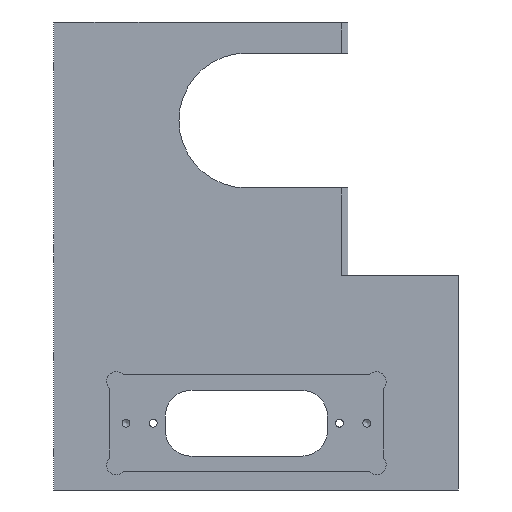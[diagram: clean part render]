
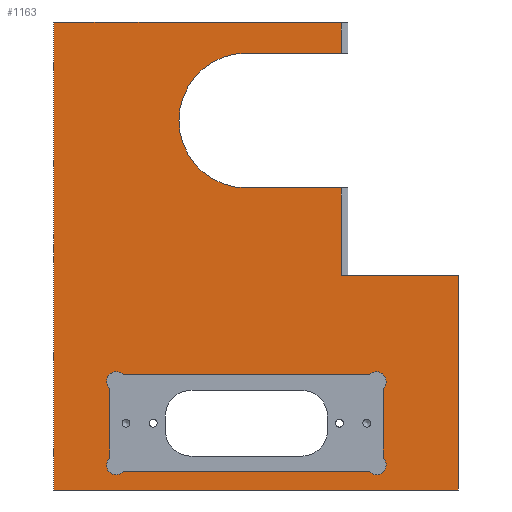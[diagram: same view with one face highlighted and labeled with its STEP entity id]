
A CAD part, front view. The second image highlights one B-rep face of the part: STEP entity #1163.
In plain terms, the highlighted planar face has unit normal (0, -1, 0).
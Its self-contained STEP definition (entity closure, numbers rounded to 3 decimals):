
#30=PLANE('',#1272);
#56=LINE('',#1754,#154);
#64=LINE('',#1776,#162);
#65=LINE('',#1778,#163);
#66=LINE('',#1780,#164);
#97=LINE('',#1873,#195);
#101=LINE('',#1883,#199);
#102=LINE('',#1885,#200);
#103=LINE('',#1887,#201);
#104=LINE('',#1889,#202);
#105=LINE('',#1891,#203);
#106=LINE('',#1893,#204);
#107=LINE('',#1895,#205);
#108=LINE('',#1899,#206);
#109=LINE('',#1900,#207);
#154=VECTOR('',#1398,21.719);
#162=VECTOR('',#1418,21.719);
#163=VECTOR('',#1421,76.719);
#164=VECTOR('',#1424,76.719);
#195=VECTOR('',#1521,61.727);
#199=VECTOR('',#1529,26.);
#200=VECTOR('',#1530,145.8);
#201=VECTOR('',#1531,126.);
#202=VECTOR('',#1532,66.8);
#203=VECTOR('',#1533,36.4);
#204=VECTOR('',#1534,27.3);
#205=VECTOR('',#1535,29.6);
#206=VECTOR('',#1538,29.6);
#207=VECTOR('',#1539,9.4);
#256=FACE_BOUND('',#424,.T.);
#338=FACE_OUTER_BOUND('',#423,.T.);
#423=EDGE_LOOP('',(#960,#961,#962,#963,#964,#965,#966,#967,#968,#969,#970,
#971));
#424=EDGE_LOOP('',(#972,#973,#974,#975,#976,#977,#978,#979));
#488=CIRCLE('',#1218,3.);
#490=CIRCLE('',#1221,3.);
#492=CIRCLE('',#1224,3.);
#495=CIRCLE('',#1228,3.);
#512=CIRCLE('',#1268,6.);
#515=CIRCLE('',#1273,21.);
#546=VERTEX_POINT('',#1717);
#548=VERTEX_POINT('',#1720);
#550=VERTEX_POINT('',#1726);
#552=VERTEX_POINT('',#1729);
#554=VERTEX_POINT('',#1735);
#556=VERTEX_POINT('',#1738);
#559=VERTEX_POINT('',#1745);
#561=VERTEX_POINT('',#1749);
#594=VERTEX_POINT('',#1863);
#595=VERTEX_POINT('',#1864);
#598=VERTEX_POINT('',#1872);
#602=VERTEX_POINT('',#1882);
#603=VERTEX_POINT('',#1884);
#604=VERTEX_POINT('',#1886);
#605=VERTEX_POINT('',#1888);
#606=VERTEX_POINT('',#1890);
#607=VERTEX_POINT('',#1892);
#608=VERTEX_POINT('',#1894);
#609=VERTEX_POINT('',#1896);
#610=VERTEX_POINT('',#1898);
#659=EDGE_CURVE('',#548,#546,#488,.T.);
#663=EDGE_CURVE('',#552,#550,#490,.T.);
#667=EDGE_CURVE('',#556,#554,#492,.T.);
#673=EDGE_CURVE('',#559,#561,#495,.T.);
#675=EDGE_CURVE('',#554,#559,#56,.T.);
#687=EDGE_CURVE('',#546,#552,#64,.T.);
#688=EDGE_CURVE('',#561,#548,#65,.T.);
#689=EDGE_CURVE('',#550,#556,#66,.T.);
#730=EDGE_CURVE('',#594,#595,#512,.T.);
#734=EDGE_CURVE('',#598,#594,#97,.T.);
#739=EDGE_CURVE('',#595,#602,#101,.T.);
#740=EDGE_CURVE('',#602,#603,#102,.T.);
#741=EDGE_CURVE('',#603,#604,#103,.T.);
#742=EDGE_CURVE('',#604,#605,#104,.T.);
#743=EDGE_CURVE('',#605,#606,#105,.T.);
#744=EDGE_CURVE('',#607,#606,#106,.T.);
#745=EDGE_CURVE('',#607,#608,#107,.T.);
#746=EDGE_CURVE('',#608,#609,#515,.T.);
#747=EDGE_CURVE('',#609,#610,#108,.T.);
#748=EDGE_CURVE('',#598,#610,#109,.T.);
#960=ORIENTED_EDGE('',*,*,#734,.T.);
#961=ORIENTED_EDGE('',*,*,#730,.T.);
#962=ORIENTED_EDGE('',*,*,#739,.T.);
#963=ORIENTED_EDGE('',*,*,#740,.T.);
#964=ORIENTED_EDGE('',*,*,#741,.T.);
#965=ORIENTED_EDGE('',*,*,#742,.T.);
#966=ORIENTED_EDGE('',*,*,#743,.T.);
#967=ORIENTED_EDGE('',*,*,#744,.F.);
#968=ORIENTED_EDGE('',*,*,#745,.T.);
#969=ORIENTED_EDGE('',*,*,#746,.T.);
#970=ORIENTED_EDGE('',*,*,#747,.T.);
#971=ORIENTED_EDGE('',*,*,#748,.F.);
#972=ORIENTED_EDGE('',*,*,#659,.T.);
#973=ORIENTED_EDGE('',*,*,#687,.T.);
#974=ORIENTED_EDGE('',*,*,#663,.T.);
#975=ORIENTED_EDGE('',*,*,#689,.T.);
#976=ORIENTED_EDGE('',*,*,#667,.T.);
#977=ORIENTED_EDGE('',*,*,#675,.T.);
#978=ORIENTED_EDGE('',*,*,#673,.T.);
#979=ORIENTED_EDGE('',*,*,#688,.T.);
#1163=ADVANCED_FACE('',(#338,#256),#30,.T.);
#1218=AXIS2_PLACEMENT_3D('',#1721,#1366,#1367);
#1221=AXIS2_PLACEMENT_3D('',#1730,#1374,#1375);
#1224=AXIS2_PLACEMENT_3D('',#1739,#1382,#1383);
#1228=AXIS2_PLACEMENT_3D('',#1751,#1393,#1394);
#1268=AXIS2_PLACEMENT_3D('',#1865,#1513,#1514);
#1272=AXIS2_PLACEMENT_3D('',#1881,#1527,#1528);
#1273=AXIS2_PLACEMENT_3D('',#1897,#1536,#1537);
#1366=DIRECTION('center_axis',(0.,1.,0.));
#1367=DIRECTION('ref_axis',(-1.,0.,0.));
#1374=DIRECTION('center_axis',(0.,1.,0.));
#1375=DIRECTION('ref_axis',(-1.,0.,0.));
#1382=DIRECTION('center_axis',(0.,1.,0.));
#1383=DIRECTION('ref_axis',(-1.,0.,0.));
#1393=DIRECTION('center_axis',(0.,1.,0.));
#1394=DIRECTION('ref_axis',(-1.,0.,0.));
#1398=DIRECTION('',(0.,0.,-1.));
#1418=DIRECTION('',(0.,0.,1.));
#1421=DIRECTION('',(-1.,0.,0.));
#1424=DIRECTION('',(1.,0.,0.));
#1513=DIRECTION('center_axis',(0.,1.,0.));
#1514=DIRECTION('ref_axis',(0.,0.,-1.));
#1521=DIRECTION('',(-1.,0.,0.));
#1527=DIRECTION('center_axis',(0.,-1.,0.));
#1528=DIRECTION('ref_axis',(0.,0.,-1.));
#1529=DIRECTION('',(-1.,0.,0.));
#1530=DIRECTION('',(0.,0.,-1.));
#1531=DIRECTION('',(1.,0.,0.));
#1532=DIRECTION('',(0.,0.,1.));
#1533=DIRECTION('',(-1.,0.,0.));
#1534=DIRECTION('',(0.,0.,-1.));
#1535=DIRECTION('',(-1.,0.,0.));
#1536=DIRECTION('center_axis',(0.,1.,0.));
#1537=DIRECTION('ref_axis',(-1.,0.,0.));
#1538=DIRECTION('',(1.,0.,0.));
#1539=DIRECTION('',(0.,0.,-1.));
#1717=CARTESIAN_POINT('',(-108.6,-6.,-56.86));
#1720=CARTESIAN_POINT('',(-104.36,-6.,-61.1));
#1721=CARTESIAN_POINT('Origin',(-106.549,-6.,-59.049));
#1726=CARTESIAN_POINT('',(-104.36,-6.,-30.9));
#1729=CARTESIAN_POINT('',(-108.6,-6.,-35.14));
#1730=CARTESIAN_POINT('Origin',(-106.549,-6.,-32.951));
#1735=CARTESIAN_POINT('',(-23.4,-6.,-35.14));
#1738=CARTESIAN_POINT('',(-27.64,-6.,-30.9));
#1739=CARTESIAN_POINT('Origin',(-25.451,-6.,-32.951));
#1745=CARTESIAN_POINT('',(-23.4,-6.,-56.86));
#1749=CARTESIAN_POINT('',(-27.64,-6.,-61.1));
#1751=CARTESIAN_POINT('Origin',(-25.451,-6.,-59.049));
#1754=CARTESIAN_POINT('',(-23.4,-6.,-14.9));
#1776=CARTESIAN_POINT('',(-108.6,-6.,-30.));
#1778=CARTESIAN_POINT('',(-45.7,-6.,-61.1));
#1780=CARTESIAN_POINT('',(-67.,-6.,-30.9));
#1863=CARTESIAN_POINT('',(-98.127,-6.,78.7));
#1864=CARTESIAN_POINT('',(-100.,-6.,79.));
#1865=CARTESIAN_POINT('Origin',(-98.127,-6.,84.7));
#1872=CARTESIAN_POINT('',(-36.4,-6.,78.7));
#1873=CARTESIAN_POINT('',(-83.063,-6.,78.7));
#1881=CARTESIAN_POINT('Origin',(-67.999,-6.,1.101));
#1882=CARTESIAN_POINT('',(-126.,-6.,79.));
#1883=CARTESIAN_POINT('',(-34.4,-6.,79.));
#1884=CARTESIAN_POINT('',(-126.,-6.,-66.8));
#1885=CARTESIAN_POINT('',(-126.,-6.,79.));
#1886=CARTESIAN_POINT('',(0.,-6.,-66.8));
#1887=CARTESIAN_POINT('',(-126.,-6.,-66.8));
#1888=CARTESIAN_POINT('',(0.,-6.,0.));
#1889=CARTESIAN_POINT('',(0.,-6.,-66.8));
#1890=CARTESIAN_POINT('',(-36.4,-6.,0.));
#1891=CARTESIAN_POINT('',(0.,-6.,0.));
#1892=CARTESIAN_POINT('',(-36.4,-6.,27.3));
#1893=CARTESIAN_POINT('',(-36.4,-6.,40.05));
#1894=CARTESIAN_POINT('',(-66.,-6.,27.3));
#1895=CARTESIAN_POINT('',(-67.,-6.,27.3));
#1896=CARTESIAN_POINT('',(-66.,-6.,69.3));
#1897=CARTESIAN_POINT('Origin',(-66.,-6.,48.3));
#1898=CARTESIAN_POINT('',(-36.4,-6.,69.3));
#1899=CARTESIAN_POINT('',(-51.2,-6.,69.3));
#1900=CARTESIAN_POINT('',(-36.4,-6.,40.05));
